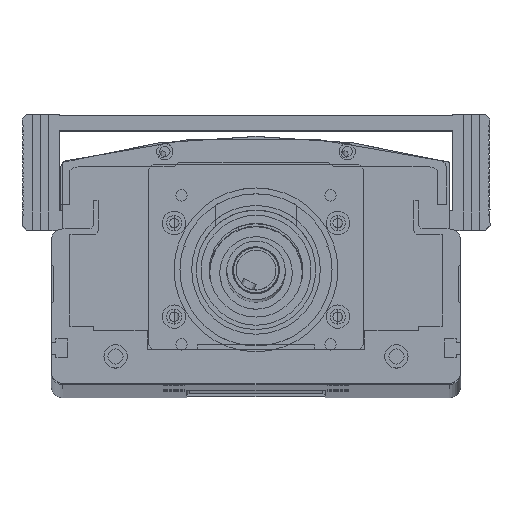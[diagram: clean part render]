
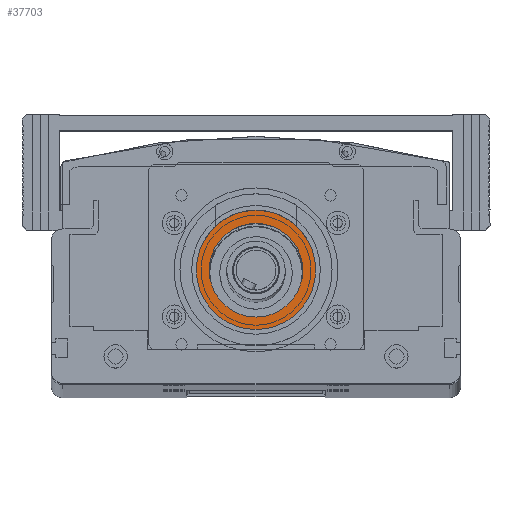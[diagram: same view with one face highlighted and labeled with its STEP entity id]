
A CAD part, top view. The second image highlights one B-rep face of the part: STEP entity #37703.
In plain terms, the highlighted planar face has unit normal (0, 0, 1) as drawn and (0, 0, -1) by its records, which use the part's own axes.
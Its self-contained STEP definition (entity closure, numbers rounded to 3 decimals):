
#196 = EDGE_CURVE ( 'NONE', #10407, #42234, #18991, .T. ) ;
#593 = CARTESIAN_POINT ( 'NONE',  ( 71.5, 34., 87. ) ) ;
#1006 = DIRECTION ( 'NONE',  ( -1., 0., 0. ) ) ;
#1057 = AXIS2_PLACEMENT_3D ( 'NONE', #16369, #20081, #45110 ) ;
#1210 = DIRECTION ( 'NONE',  ( -1., 0., 0. ) ) ;
#2758 = ORIENTED_EDGE ( 'NONE', *, *, #41068, .T. ) ;
#2854 = CIRCLE ( 'NONE', #33903, 25.5 ) ;
#3230 = AXIS2_PLACEMENT_3D ( 'NONE', #43976, #22597, #1210 ) ;
#3601 = ORIENTED_EDGE ( 'NONE', *, *, #31998, .T. ) ;
#3741 = VECTOR ( 'NONE', #23601, 1000. ) ;
#3988 = DIRECTION ( 'NONE',  ( 0., 1., 0. ) ) ;
#4575 = CARTESIAN_POINT ( 'NONE',  ( 63.5, 52.547, 87. ) ) ;
#4592 = VERTEX_POINT ( 'NONE', #35342 ) ;
#4895 = LINE ( 'NONE', #27185, #3741 ) ;
#6694 = EDGE_CURVE ( 'NONE', #13076, #4592, #4895, .T. ) ;
#8751 = CARTESIAN_POINT ( 'NONE',  ( 28.5, 52.547, 87. ) ) ;
#10407 = VERTEX_POINT ( 'NONE', #14325 ) ;
#10962 = CIRCLE ( 'NONE', #3230, 20. ) ;
#11932 = DIRECTION ( 'NONE',  ( 0., 0., -1. ) ) ;
#12069 = AXIS2_PLACEMENT_3D ( 'NONE', #16055, #41067, #19648 ) ;
#13076 = VERTEX_POINT ( 'NONE', #4575 ) ;
#13736 = ORIENTED_EDGE ( 'NONE', *, *, #6694, .F. ) ;
#14325 = CARTESIAN_POINT ( 'NONE',  ( 20.5, 34., 87. ) ) ;
#14607 = DIRECTION ( 'NONE',  ( 0., 0., -1. ) ) ;
#15800 = CIRCLE ( 'NONE', #26645, 20. ) ;
#15951 = EDGE_LOOP ( 'NONE', ( #39199, #17595 ) ) ;
#16055 = CARTESIAN_POINT ( 'NONE',  ( 46., 34., 87. ) ) ;
#16369 = CARTESIAN_POINT ( 'NONE',  ( 46., 34., 87. ) ) ;
#16510 = VECTOR ( 'NONE', #24436, 1000. ) ;
#17595 = ORIENTED_EDGE ( 'NONE', *, *, #42809, .F. ) ;
#18991 = CIRCLE ( 'NONE', #12069, 25.5 ) ;
#19648 = DIRECTION ( 'NONE',  ( -1., 0., 0. ) ) ;
#20081 = DIRECTION ( 'NONE',  ( 0., 0., -1. ) ) ;
#21374 = CARTESIAN_POINT ( 'NONE',  ( 26., 34., 87. ) ) ;
#22395 = DIRECTION ( 'NONE',  ( 0., 0., -1. ) ) ;
#22416 = VECTOR ( 'NONE', #3988, 1000. ) ;
#22532 = EDGE_LOOP ( 'NONE', ( #3601, #38213, #34513, #29066, #2758, #13736 ) ) ;
#22597 = DIRECTION ( 'NONE',  ( 0., 0., -1. ) ) ;
#22971 = VERTEX_POINT ( 'NONE', #28279 ) ;
#23601 = DIRECTION ( 'NONE',  ( 0., 1., 0. ) ) ;
#24070 = VERTEX_POINT ( 'NONE', #593 ) ;
#24436 = DIRECTION ( 'NONE',  ( 1., 0., 0. ) ) ;
#24478 = AXIS2_PLACEMENT_3D ( 'NONE', #33336, #11932, #36921 ) ;
#26042 = LINE ( 'NONE', #35037, #16510 ) ;
#26645 = AXIS2_PLACEMENT_3D ( 'NONE', #43785, #22395, #1006 ) ;
#26750 = EDGE_CURVE ( 'NONE', #24070, #10407, #43863, .T. ) ;
#27185 = CARTESIAN_POINT ( 'NONE',  ( 63.5, 49., 87. ) ) ;
#28279 = CARTESIAN_POINT ( 'NONE',  ( 28.5, 79., 87. ) ) ;
#29066 = ORIENTED_EDGE ( 'NONE', *, *, #29324, .T. ) ;
#29263 = FACE_OUTER_BOUND ( 'NONE', #22532, .T. ) ;
#29324 = EDGE_CURVE ( 'NONE', #42234, #22971, #41411, .T. ) ;
#29530 = VERTEX_POINT ( 'NONE', #40837 ) ;
#31998 = EDGE_CURVE ( 'NONE', #13076, #24070, #2854, .T. ) ;
#32394 = CARTESIAN_POINT ( 'NONE',  ( 28.5, 49., 87. ) ) ;
#33336 = CARTESIAN_POINT ( 'NONE',  ( 46., 34., 87. ) ) ;
#33903 = AXIS2_PLACEMENT_3D ( 'NONE', #36025, #14607, #39600 ) ;
#34513 = ORIENTED_EDGE ( 'NONE', *, *, #196, .T. ) ;
#35037 = CARTESIAN_POINT ( 'NONE',  ( 28.5, 79., 87. ) ) ;
#35342 = CARTESIAN_POINT ( 'NONE',  ( 63.5, 79., 87. ) ) ;
#36025 = CARTESIAN_POINT ( 'NONE',  ( 46., 34., 87. ) ) ;
#36921 = DIRECTION ( 'NONE',  ( -1., 0., 0. ) ) ;
#37285 = VERTEX_POINT ( 'NONE', #21374 ) ;
#37703 = ADVANCED_FACE ( 'NONE', ( #29263, #38761 ), #41511, .T. ) ;
#38213 = ORIENTED_EDGE ( 'NONE', *, *, #26750, .T. ) ;
#38761 = FACE_BOUND ( 'NONE', #15951, .T. ) ;
#39199 = ORIENTED_EDGE ( 'NONE', *, *, #40693, .F. ) ;
#39600 = DIRECTION ( 'NONE',  ( -1., 0., 0. ) ) ;
#40693 = EDGE_CURVE ( 'NONE', #37285, #29530, #10962, .T. ) ;
#40837 = CARTESIAN_POINT ( 'NONE',  ( 66., 34., 87. ) ) ;
#41067 = DIRECTION ( 'NONE',  ( 0., 0., -1. ) ) ;
#41068 = EDGE_CURVE ( 'NONE', #22971, #4592, #26042, .T. ) ;
#41411 = LINE ( 'NONE', #32394, #22416 ) ;
#41511 = PLANE ( 'NONE',  #1057 ) ;
#42234 = VERTEX_POINT ( 'NONE', #8751 ) ;
#42809 = EDGE_CURVE ( 'NONE', #29530, #37285, #15800, .T. ) ;
#43785 = CARTESIAN_POINT ( 'NONE',  ( 46., 34., 87. ) ) ;
#43863 = CIRCLE ( 'NONE', #24478, 25.5 ) ;
#43976 = CARTESIAN_POINT ( 'NONE',  ( 46., 34., 87. ) ) ;
#45110 = DIRECTION ( 'NONE',  ( -1., 0., 0. ) ) ;
